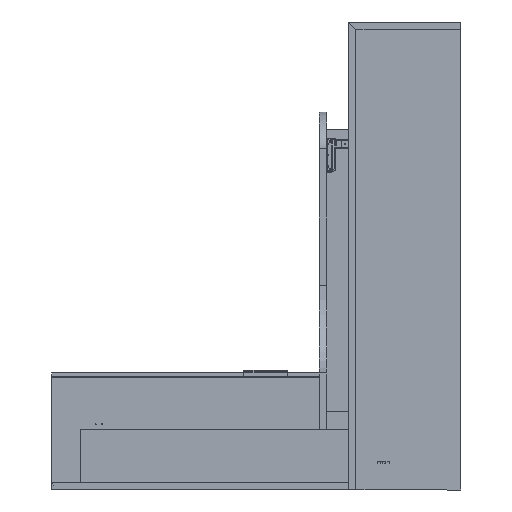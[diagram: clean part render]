
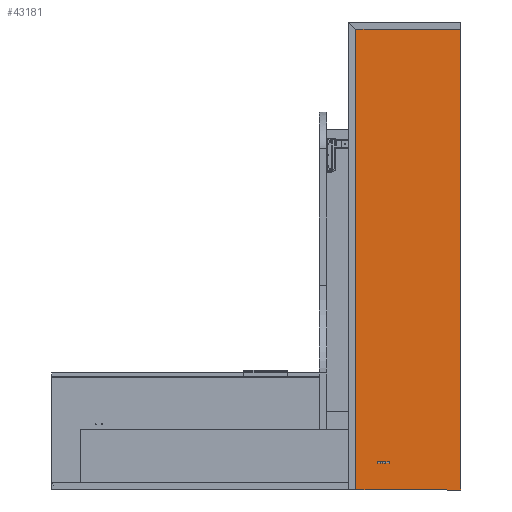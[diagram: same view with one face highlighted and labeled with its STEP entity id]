
A CAD part, left-side view. The second image highlights one B-rep face of the part: STEP entity #43181.
In plain terms, the highlighted planar face has unit normal (-1, 0, 0) as drawn and (0, 0, -1) by its records, which use the part's own axes.
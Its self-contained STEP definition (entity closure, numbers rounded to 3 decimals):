
#5656=PLANE('',#47642);
#7465=FACE_OUTER_BOUND('',#9956,.T.);
#9956=EDGE_LOOP('',(#34862,#34863,#34864,#34865));
#12939=LINE('',#70258,#16717);
#12942=LINE('',#70264,#16720);
#12945=LINE('',#70270,#16723);
#12948=LINE('',#70274,#16726);
#16717=VECTOR('',#55587,0.394);
#16720=VECTOR('',#55592,0.394);
#16723=VECTOR('',#55597,0.394);
#16726=VECTOR('',#55602,0.394);
#22312=VERTEX_POINT('',#70255);
#22313=VERTEX_POINT('',#70257);
#22315=VERTEX_POINT('',#70263);
#22317=VERTEX_POINT('',#70269);
#26830=EDGE_CURVE('',#22313,#22312,#12939,.T.);
#26833=EDGE_CURVE('',#22315,#22313,#12942,.T.);
#26836=EDGE_CURVE('',#22317,#22315,#12945,.T.);
#26839=EDGE_CURVE('',#22312,#22317,#12948,.T.);
#34862=ORIENTED_EDGE('',*,*,#26839,.T.);
#34863=ORIENTED_EDGE('',*,*,#26836,.T.);
#34864=ORIENTED_EDGE('',*,*,#26833,.T.);
#34865=ORIENTED_EDGE('',*,*,#26830,.T.);
#43181=ADVANCED_FACE('',(#7465),#5656,.T.);
#47642=AXIS2_PLACEMENT_3D('',#70276,#55605,#55606);
#55587=DIRECTION('',(0.,-1.,0.));
#55592=DIRECTION('',(1.,0.,0.));
#55597=DIRECTION('',(0.,1.,0.));
#55602=DIRECTION('',(-1.,0.,0.));
#55605=DIRECTION('center_axis',(0.,0.,-1.));
#55606=DIRECTION('ref_axis',(-1.,0.,0.));
#70255=CARTESIAN_POINT('',(96.,0.,-0.75));
#70257=CARTESIAN_POINT('',(96.,21.5,-0.75));
#70258=CARTESIAN_POINT('',(96.,0.,-0.75));
#70263=CARTESIAN_POINT('',(1.5,21.5,-0.75));
#70264=CARTESIAN_POINT('',(96.,21.5,-0.75));
#70269=CARTESIAN_POINT('',(1.5,0.,-0.75));
#70270=CARTESIAN_POINT('',(1.5,21.5,-0.75));
#70274=CARTESIAN_POINT('',(0.,0.,-0.75));
#70276=CARTESIAN_POINT('Origin',(48.75,10.75,-0.75));
